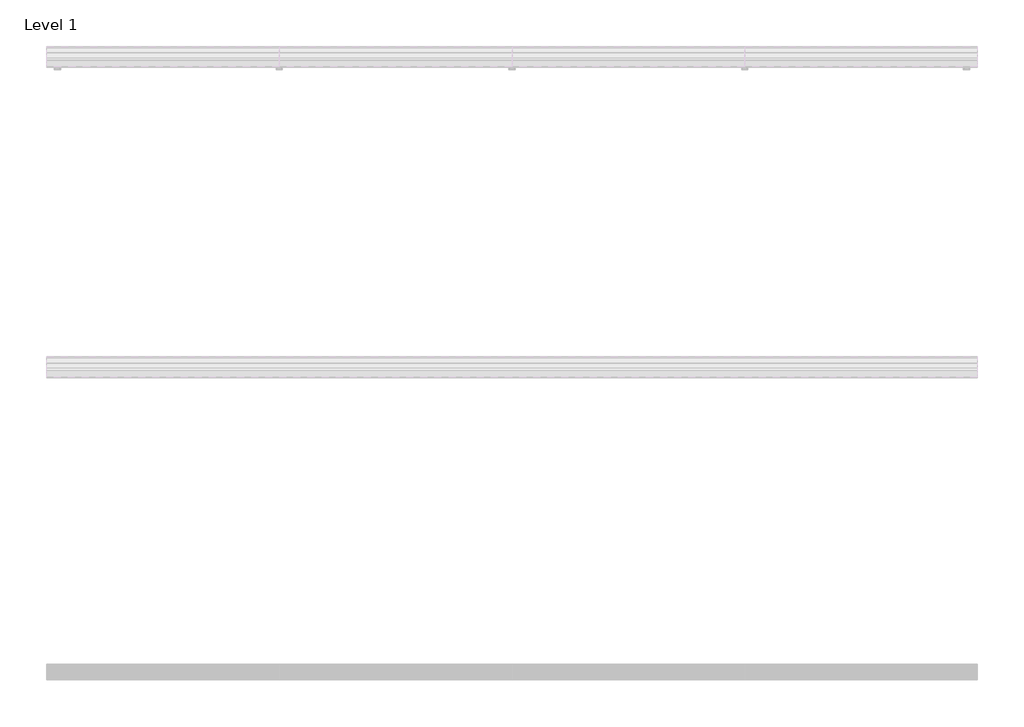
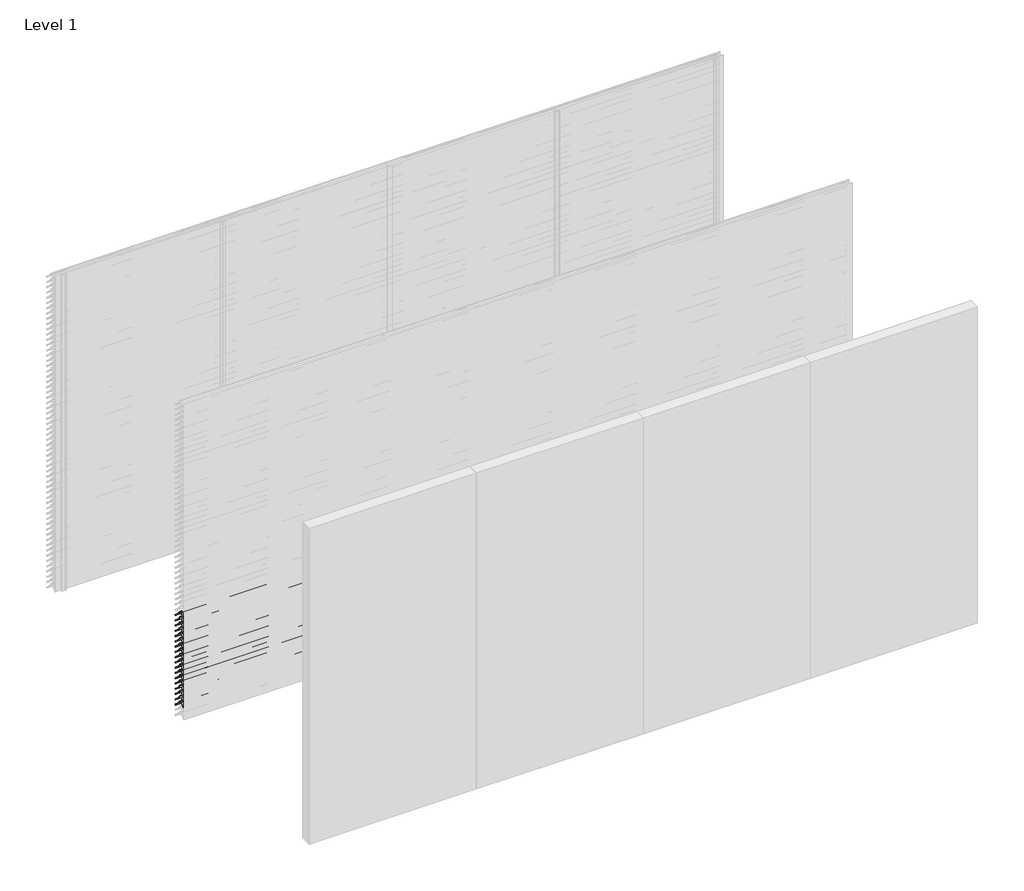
# One storey, part 91 of 173: 18 proxies.
"""IFC4 building model written with IfcOpenShell, lengths in millimetres."""

from ifc_helpers import new_model, si_unit, point, frame, frame_2d, origin, place, context, project, spatial, polyline, circle_curve, trimmed, segment, composite_curve, outline, extrude, element, save

model = new_model("IFC4")

# Units and contexts
model_context = context("Model", 3, world=origin())
ifc_project = project(units=[si_unit("LENGTHUNIT", "METRE", prefix="MILLI")], contexts=[model_context])

# Site, building, storey
site = spatial("IfcSite", under=ifc_project)
building = spatial("IfcBuilding", under=site)
storey = spatial("IfcBuildingStorey", under=building, Name="Level 1", Elevation=0.0)

# Proxies
placement = place(None, origin())
element("IfcBuildingElementProxy", 1, Name="Wall Sweeps", at=placement, inside=storey, context=model_context, shape_type="SweptSolid", body=[
    extrude(outline(composite_curve([segment(polyline([(-25998.0, 959.1474905), (-25998.0, 961.6227417)]), True, "CONTINUOUS"), segment(trimmed(circle_curve(frame_2d((-25951.2682172, 916.2200208)), 65.1557103), [point((-25998.0, 961.6227417))], [point((-25954.4014323, 981.3003524))], False, "CARTESIAN"), True, "CONTINUOUS"), segment(polyline([(-25954.4014323, 981.3003524), (-25934.8315836, 981.3003524)]), True, "CONTINUOUS"), segment(trimmed(circle_curve(frame_2d((-25732.7329489, 1128.5533172)), 250.0545817), [point((-25934.8315836, 981.3003524))], [point((-25941.4452143, 990.8344583))], False, "CARTESIAN"), True, "CONTINUOUS"), segment(trimmed(circle_curve(frame_2d((-25953.2981792, 985.1737835)), 13.1352966), [point((-25941.4452143, 990.8344583))], [point((-25953.8171475, 998.298824))], True, "CARTESIAN"), True, "CONTINUOUS"), segment(polyline([(-25953.8171475, 998.298824), (-25953.8171475, 1000.0)]), True, "CONTINUOUS"), segment(trimmed(circle_curve(frame_2d((-25953.2981792, 985.1737835)), 14.8352966), [point((-25953.8171475, 1000.0))], [point((-25939.9637661, 991.6760487))], False, "CARTESIAN"), True, "CONTINUOUS"), segment(trimmed(circle_curve(frame_2d((-25732.7329489, 1128.5533172)), 248.3545817), [point((-25939.9637661, 991.6760487))], [point((-25873.8787895, 924.2059416))], True, "CARTESIAN"), True, "CONTINUOUS"), segment(trimmed(circle_curve(frame_2d((-25883.8147537, 911.6649442)), 16.0), [point((-25873.8787895, 924.2059416))], [point((-25867.8648347, 910.4))], False, "CARTESIAN"), True, "CONTINUOUS"), segment(polyline([(-25867.8648347, 910.4), (-25869.6712069, 910.4)]), True, "CONTINUOUS"), segment(trimmed(circle_curve(frame_2d((-25883.8147537, 911.6649442)), 14.2), [point((-25869.6712069, 910.4))], [point((-25874.9518628, 922.7594998))], True, "CARTESIAN"), True, "CONTINUOUS"), segment(trimmed(circle_curve(frame_2d((-25732.7329489, 1128.5533172)), 250.1545817), [point((-25874.9518628, 922.7594998))], [point((-25933.7064024, 979.6003524))], False, "CARTESIAN"), True, "CONTINUOUS"), segment(polyline([(-25933.7064024, 979.6003524), (-25954.3602632, 979.6003524)]), True, "CONTINUOUS"), segment(trimmed(circle_curve(frame_2d((-25951.2682172, 916.2200208)), 63.4557103), [point((-25954.3602632, 979.6003524))], [point((-25998.0, 959.1474905))], True, "CARTESIAN"), True, "CONTINUOUS")], self_intersect=False)), frame((0.0, 0.0, 0.0), z_axis=(1.0, 0.0, 0.0), x_axis=(0.0, 1.0, 0.0)), (0.0, 0.0, 1.0), 6000.0),
])
element("IfcBuildingElementProxy", 2, Name="Wall Sweeps", at=placement, inside=storey, context=model_context, shape_type="SweptSolid", body=[
    extrude(outline(composite_curve([segment(polyline([(-25998.0, 909.1474905), (-25998.0, 911.6227417)]), True, "CONTINUOUS"), segment(trimmed(circle_curve(frame_2d((-25951.2682172, 866.2200208)), 65.1557103), [point((-25998.0, 911.6227417))], [point((-25954.4014323, 931.3003524))], False, "CARTESIAN"), True, "CONTINUOUS"), segment(polyline([(-25954.4014323, 931.3003524), (-25934.8315836, 931.3003524)]), True, "CONTINUOUS"), segment(trimmed(circle_curve(frame_2d((-25732.7329489, 1078.5533172)), 250.0545817), [point((-25934.8315836, 931.3003524))], [point((-25941.4452143, 940.8344583))], False, "CARTESIAN"), True, "CONTINUOUS"), segment(trimmed(circle_curve(frame_2d((-25953.2981792, 935.1737835)), 13.1352966), [point((-25941.4452143, 940.8344583))], [point((-25953.8171475, 948.298824))], True, "CARTESIAN"), True, "CONTINUOUS"), segment(polyline([(-25953.8171475, 948.298824), (-25953.8171475, 950.0)]), True, "CONTINUOUS"), segment(trimmed(circle_curve(frame_2d((-25953.2981792, 935.1737835)), 14.8352966), [point((-25953.8171475, 950.0))], [point((-25939.9637661, 941.6760487))], False, "CARTESIAN"), True, "CONTINUOUS"), segment(trimmed(circle_curve(frame_2d((-25732.7329489, 1078.5533172)), 248.3545817), [point((-25939.9637661, 941.6760487))], [point((-25873.8787895, 874.2059416))], True, "CARTESIAN"), True, "CONTINUOUS"), segment(trimmed(circle_curve(frame_2d((-25883.8147537, 861.6649442)), 16.0), [point((-25873.8787895, 874.2059416))], [point((-25867.8648347, 860.4))], False, "CARTESIAN"), True, "CONTINUOUS"), segment(polyline([(-25867.8648347, 860.4), (-25869.6712069, 860.4)]), True, "CONTINUOUS"), segment(trimmed(circle_curve(frame_2d((-25883.8147537, 861.6649442)), 14.2), [point((-25869.6712069, 860.4))], [point((-25874.9518628, 872.7594998))], True, "CARTESIAN"), True, "CONTINUOUS"), segment(trimmed(circle_curve(frame_2d((-25732.7329489, 1078.5533172)), 250.1545817), [point((-25874.9518628, 872.7594998))], [point((-25933.7064024, 929.6003524))], False, "CARTESIAN"), True, "CONTINUOUS"), segment(polyline([(-25933.7064024, 929.6003524), (-25954.3602632, 929.6003524)]), True, "CONTINUOUS"), segment(trimmed(circle_curve(frame_2d((-25951.2682172, 866.2200208)), 63.4557103), [point((-25954.3602632, 929.6003524))], [point((-25998.0, 909.1474905))], True, "CARTESIAN"), True, "CONTINUOUS")], self_intersect=False)), frame((0.0, 0.0, 0.0), z_axis=(1.0, 0.0, 0.0), x_axis=(0.0, 1.0, 0.0)), (0.0, 0.0, 1.0), 6000.0),
])
element("IfcBuildingElementProxy", 3, Name="Wall Sweeps", at=placement, inside=storey, context=model_context, shape_type="SweptSolid", body=[
    extrude(outline(composite_curve([segment(polyline([(-25998.0, 859.1474905), (-25998.0, 861.6227417)]), True, "CONTINUOUS"), segment(trimmed(circle_curve(frame_2d((-25951.2682172, 816.2200208)), 65.1557103), [point((-25998.0, 861.6227417))], [point((-25954.4014323, 881.3003524))], False, "CARTESIAN"), True, "CONTINUOUS"), segment(polyline([(-25954.4014323, 881.3003524), (-25934.8315836, 881.3003524)]), True, "CONTINUOUS"), segment(trimmed(circle_curve(frame_2d((-25732.7329489, 1028.5533172)), 250.0545817), [point((-25934.8315836, 881.3003524))], [point((-25941.4452143, 890.8344583))], False, "CARTESIAN"), True, "CONTINUOUS"), segment(trimmed(circle_curve(frame_2d((-25953.2981792, 885.1737835)), 13.1352966), [point((-25941.4452143, 890.8344583))], [point((-25953.8171475, 898.298824))], True, "CARTESIAN"), True, "CONTINUOUS"), segment(polyline([(-25953.8171475, 898.298824), (-25953.8171475, 900.0)]), True, "CONTINUOUS"), segment(trimmed(circle_curve(frame_2d((-25953.2981792, 885.1737835)), 14.8352966), [point((-25953.8171475, 900.0))], [point((-25939.9637661, 891.6760487))], False, "CARTESIAN"), True, "CONTINUOUS"), segment(trimmed(circle_curve(frame_2d((-25732.7329489, 1028.5533172)), 248.3545817), [point((-25939.9637661, 891.6760487))], [point((-25873.8787895, 824.2059416))], True, "CARTESIAN"), True, "CONTINUOUS"), segment(trimmed(circle_curve(frame_2d((-25883.8147537, 811.6649442)), 16.0), [point((-25873.8787895, 824.2059416))], [point((-25867.8648347, 810.4))], False, "CARTESIAN"), True, "CONTINUOUS"), segment(polyline([(-25867.8648347, 810.4), (-25869.6712069, 810.4)]), True, "CONTINUOUS"), segment(trimmed(circle_curve(frame_2d((-25883.8147537, 811.6649442)), 14.2), [point((-25869.6712069, 810.4))], [point((-25874.9518628, 822.7594998))], True, "CARTESIAN"), True, "CONTINUOUS"), segment(trimmed(circle_curve(frame_2d((-25732.7329489, 1028.5533172)), 250.1545817), [point((-25874.9518628, 822.7594998))], [point((-25933.7064024, 879.6003524))], False, "CARTESIAN"), True, "CONTINUOUS"), segment(polyline([(-25933.7064024, 879.6003524), (-25954.3602632, 879.6003524)]), True, "CONTINUOUS"), segment(trimmed(circle_curve(frame_2d((-25951.2682172, 816.2200208)), 63.4557103), [point((-25954.3602632, 879.6003524))], [point((-25998.0, 859.1474905))], True, "CARTESIAN"), True, "CONTINUOUS")], self_intersect=False)), frame((0.0, 0.0, 0.0), z_axis=(1.0, 0.0, 0.0), x_axis=(0.0, 1.0, 0.0)), (0.0, 0.0, 1.0), 6000.0),
])
element("IfcBuildingElementProxy", 4, Name="Wall Sweeps", at=placement, inside=storey, context=model_context, shape_type="SweptSolid", body=[
    extrude(outline(composite_curve([segment(polyline([(-25998.0, 809.1474905), (-25998.0, 811.6227417)]), True, "CONTINUOUS"), segment(trimmed(circle_curve(frame_2d((-25951.2682172, 766.2200208)), 65.1557103), [point((-25998.0, 811.6227417))], [point((-25954.4014323, 831.3003524))], False, "CARTESIAN"), True, "CONTINUOUS"), segment(polyline([(-25954.4014323, 831.3003524), (-25934.8315836, 831.3003524)]), True, "CONTINUOUS"), segment(trimmed(circle_curve(frame_2d((-25732.7329489, 978.5533172)), 250.0545817), [point((-25934.8315836, 831.3003524))], [point((-25941.4452143, 840.8344583))], False, "CARTESIAN"), True, "CONTINUOUS"), segment(trimmed(circle_curve(frame_2d((-25953.2981792, 835.1737835)), 13.1352966), [point((-25941.4452143, 840.8344583))], [point((-25953.8171475, 848.298824))], True, "CARTESIAN"), True, "CONTINUOUS"), segment(polyline([(-25953.8171475, 848.298824), (-25953.8171475, 850.0)]), True, "CONTINUOUS"), segment(trimmed(circle_curve(frame_2d((-25953.2981792, 835.1737835)), 14.8352966), [point((-25953.8171475, 850.0))], [point((-25939.9637661, 841.6760487))], False, "CARTESIAN"), True, "CONTINUOUS"), segment(trimmed(circle_curve(frame_2d((-25732.7329489, 978.5533172)), 248.3545817), [point((-25939.9637661, 841.6760487))], [point((-25873.8787895, 774.2059416))], True, "CARTESIAN"), True, "CONTINUOUS"), segment(trimmed(circle_curve(frame_2d((-25883.8147537, 761.6649442)), 16.0), [point((-25873.8787895, 774.2059416))], [point((-25867.8648347, 760.4))], False, "CARTESIAN"), True, "CONTINUOUS"), segment(polyline([(-25867.8648347, 760.4), (-25869.6712069, 760.4)]), True, "CONTINUOUS"), segment(trimmed(circle_curve(frame_2d((-25883.8147537, 761.6649442)), 14.2), [point((-25869.6712069, 760.4))], [point((-25874.9518628, 772.7594998))], True, "CARTESIAN"), True, "CONTINUOUS"), segment(trimmed(circle_curve(frame_2d((-25732.7329489, 978.5533172)), 250.1545817), [point((-25874.9518628, 772.7594998))], [point((-25933.7064024, 829.6003524))], False, "CARTESIAN"), True, "CONTINUOUS"), segment(polyline([(-25933.7064024, 829.6003524), (-25954.3602632, 829.6003524)]), True, "CONTINUOUS"), segment(trimmed(circle_curve(frame_2d((-25951.2682172, 766.2200208)), 63.4557103), [point((-25954.3602632, 829.6003524))], [point((-25998.0, 809.1474905))], True, "CARTESIAN"), True, "CONTINUOUS")], self_intersect=False)), frame((0.0, 0.0, 0.0), z_axis=(1.0, 0.0, 0.0), x_axis=(0.0, 1.0, 0.0)), (0.0, 0.0, 1.0), 6000.0),
])
element("IfcBuildingElementProxy", 5, Name="Wall Sweeps", at=placement, inside=storey, context=model_context, shape_type="SweptSolid", body=[
    extrude(outline(composite_curve([segment(polyline([(-25998.0, 759.1474905), (-25998.0, 761.6227417)]), True, "CONTINUOUS"), segment(trimmed(circle_curve(frame_2d((-25951.2682172, 716.2200208)), 65.1557103), [point((-25998.0, 761.6227417))], [point((-25954.4014323, 781.3003524))], False, "CARTESIAN"), True, "CONTINUOUS"), segment(polyline([(-25954.4014323, 781.3003524), (-25934.8315836, 781.3003524)]), True, "CONTINUOUS"), segment(trimmed(circle_curve(frame_2d((-25732.7329489, 928.5533172)), 250.0545817), [point((-25934.8315836, 781.3003524))], [point((-25941.4452143, 790.8344583))], False, "CARTESIAN"), True, "CONTINUOUS"), segment(trimmed(circle_curve(frame_2d((-25953.2981792, 785.1737835)), 13.1352966), [point((-25941.4452143, 790.8344583))], [point((-25953.8171475, 798.298824))], True, "CARTESIAN"), True, "CONTINUOUS"), segment(polyline([(-25953.8171475, 798.298824), (-25953.8171475, 800.0)]), True, "CONTINUOUS"), segment(trimmed(circle_curve(frame_2d((-25953.2981792, 785.1737835)), 14.8352966), [point((-25953.8171475, 800.0))], [point((-25939.9637661, 791.6760487))], False, "CARTESIAN"), True, "CONTINUOUS"), segment(trimmed(circle_curve(frame_2d((-25732.7329489, 928.5533172)), 248.3545817), [point((-25939.9637661, 791.6760487))], [point((-25873.8787895, 724.2059416))], True, "CARTESIAN"), True, "CONTINUOUS"), segment(trimmed(circle_curve(frame_2d((-25883.8147537, 711.6649442)), 16.0), [point((-25873.8787895, 724.2059416))], [point((-25867.8648347, 710.4))], False, "CARTESIAN"), True, "CONTINUOUS"), segment(polyline([(-25867.8648347, 710.4), (-25869.6712069, 710.4)]), True, "CONTINUOUS"), segment(trimmed(circle_curve(frame_2d((-25883.8147537, 711.6649442)), 14.2), [point((-25869.6712069, 710.4))], [point((-25874.9518628, 722.7594998))], True, "CARTESIAN"), True, "CONTINUOUS"), segment(trimmed(circle_curve(frame_2d((-25732.7329489, 928.5533172)), 250.1545817), [point((-25874.9518628, 722.7594998))], [point((-25933.7064024, 779.6003524))], False, "CARTESIAN"), True, "CONTINUOUS"), segment(polyline([(-25933.7064024, 779.6003524), (-25954.3602632, 779.6003524)]), True, "CONTINUOUS"), segment(trimmed(circle_curve(frame_2d((-25951.2682172, 716.2200208)), 63.4557103), [point((-25954.3602632, 779.6003524))], [point((-25998.0, 759.1474905))], True, "CARTESIAN"), True, "CONTINUOUS")], self_intersect=False)), frame((0.0, 0.0, 0.0), z_axis=(1.0, 0.0, 0.0), x_axis=(0.0, 1.0, 0.0)), (0.0, 0.0, 1.0), 6000.0),
])
element("IfcBuildingElementProxy", 6, Name="Wall Sweeps", at=placement, inside=storey, context=model_context, shape_type="SweptSolid", body=[
    extrude(outline(composite_curve([segment(polyline([(-25998.0, 709.1474905), (-25998.0, 711.6227417)]), True, "CONTINUOUS"), segment(trimmed(circle_curve(frame_2d((-25951.2682172, 666.2200208)), 65.1557103), [point((-25998.0, 711.6227417))], [point((-25954.4014323, 731.3003524))], False, "CARTESIAN"), True, "CONTINUOUS"), segment(polyline([(-25954.4014323, 731.3003524), (-25934.8315836, 731.3003524)]), True, "CONTINUOUS"), segment(trimmed(circle_curve(frame_2d((-25732.7329489, 878.5533172)), 250.0545817), [point((-25934.8315836, 731.3003524))], [point((-25941.4452143, 740.8344583))], False, "CARTESIAN"), True, "CONTINUOUS"), segment(trimmed(circle_curve(frame_2d((-25953.2981792, 735.1737835)), 13.1352966), [point((-25941.4452143, 740.8344583))], [point((-25953.8171475, 748.298824))], True, "CARTESIAN"), True, "CONTINUOUS"), segment(polyline([(-25953.8171475, 748.298824), (-25953.8171475, 750.0)]), True, "CONTINUOUS"), segment(trimmed(circle_curve(frame_2d((-25953.2981792, 735.1737835)), 14.8352966), [point((-25953.8171475, 750.0))], [point((-25939.9637661, 741.6760487))], False, "CARTESIAN"), True, "CONTINUOUS"), segment(trimmed(circle_curve(frame_2d((-25732.7329489, 878.5533172)), 248.3545817), [point((-25939.9637661, 741.6760487))], [point((-25873.8787895, 674.2059416))], True, "CARTESIAN"), True, "CONTINUOUS"), segment(trimmed(circle_curve(frame_2d((-25883.8147537, 661.6649442)), 16.0), [point((-25873.8787895, 674.2059416))], [point((-25867.8648347, 660.4))], False, "CARTESIAN"), True, "CONTINUOUS"), segment(polyline([(-25867.8648347, 660.4), (-25869.6712069, 660.4)]), True, "CONTINUOUS"), segment(trimmed(circle_curve(frame_2d((-25883.8147537, 661.6649442)), 14.2), [point((-25869.6712069, 660.4))], [point((-25874.9518628, 672.7594998))], True, "CARTESIAN"), True, "CONTINUOUS"), segment(trimmed(circle_curve(frame_2d((-25732.7329489, 878.5533172)), 250.1545817), [point((-25874.9518628, 672.7594998))], [point((-25933.7064024, 729.6003524))], False, "CARTESIAN"), True, "CONTINUOUS"), segment(polyline([(-25933.7064024, 729.6003524), (-25954.3602632, 729.6003524)]), True, "CONTINUOUS"), segment(trimmed(circle_curve(frame_2d((-25951.2682172, 666.2200208)), 63.4557103), [point((-25954.3602632, 729.6003524))], [point((-25998.0, 709.1474905))], True, "CARTESIAN"), True, "CONTINUOUS")], self_intersect=False)), frame((0.0, 0.0, 0.0), z_axis=(1.0, 0.0, 0.0), x_axis=(0.0, 1.0, 0.0)), (0.0, 0.0, 1.0), 6000.0),
])
element("IfcBuildingElementProxy", 7, Name="Wall Sweeps", at=placement, inside=storey, context=model_context, shape_type="SweptSolid", body=[
    extrude(outline(composite_curve([segment(polyline([(-25998.0, 659.1474905), (-25998.0, 661.6227417)]), True, "CONTINUOUS"), segment(trimmed(circle_curve(frame_2d((-25951.2682172, 616.2200208)), 65.1557103), [point((-25998.0, 661.6227417))], [point((-25954.4014323, 681.3003524))], False, "CARTESIAN"), True, "CONTINUOUS"), segment(polyline([(-25954.4014323, 681.3003524), (-25934.8315836, 681.3003524)]), True, "CONTINUOUS"), segment(trimmed(circle_curve(frame_2d((-25732.7329489, 828.5533172)), 250.0545817), [point((-25934.8315836, 681.3003524))], [point((-25941.4452143, 690.8344583))], False, "CARTESIAN"), True, "CONTINUOUS"), segment(trimmed(circle_curve(frame_2d((-25953.2981792, 685.1737835)), 13.1352966), [point((-25941.4452143, 690.8344583))], [point((-25953.8171475, 698.298824))], True, "CARTESIAN"), True, "CONTINUOUS"), segment(polyline([(-25953.8171475, 698.298824), (-25953.8171475, 700.0)]), True, "CONTINUOUS"), segment(trimmed(circle_curve(frame_2d((-25953.2981792, 685.1737835)), 14.8352966), [point((-25953.8171475, 700.0))], [point((-25939.9637661, 691.6760487))], False, "CARTESIAN"), True, "CONTINUOUS"), segment(trimmed(circle_curve(frame_2d((-25732.7329489, 828.5533172)), 248.3545817), [point((-25939.9637661, 691.6760487))], [point((-25873.8787895, 624.2059416))], True, "CARTESIAN"), True, "CONTINUOUS"), segment(trimmed(circle_curve(frame_2d((-25883.8147537, 611.6649442)), 16.0), [point((-25873.8787895, 624.2059416))], [point((-25867.8648347, 610.4))], False, "CARTESIAN"), True, "CONTINUOUS"), segment(polyline([(-25867.8648347, 610.4), (-25869.6712069, 610.4)]), True, "CONTINUOUS"), segment(trimmed(circle_curve(frame_2d((-25883.8147537, 611.6649442)), 14.2), [point((-25869.6712069, 610.4))], [point((-25874.9518628, 622.7594998))], True, "CARTESIAN"), True, "CONTINUOUS"), segment(trimmed(circle_curve(frame_2d((-25732.7329489, 828.5533172)), 250.1545817), [point((-25874.9518628, 622.7594998))], [point((-25933.7064024, 679.6003524))], False, "CARTESIAN"), True, "CONTINUOUS"), segment(polyline([(-25933.7064024, 679.6003524), (-25954.3602632, 679.6003524)]), True, "CONTINUOUS"), segment(trimmed(circle_curve(frame_2d((-25951.2682172, 616.2200208)), 63.4557103), [point((-25954.3602632, 679.6003524))], [point((-25998.0, 659.1474905))], True, "CARTESIAN"), True, "CONTINUOUS")], self_intersect=False)), frame((0.0, 0.0, 0.0), z_axis=(1.0, 0.0, 0.0), x_axis=(0.0, 1.0, 0.0)), (0.0, 0.0, 1.0), 6000.0),
])
element("IfcBuildingElementProxy", 8, Name="Wall Sweeps", at=placement, inside=storey, context=model_context, shape_type="SweptSolid", body=[
    extrude(outline(composite_curve([segment(polyline([(-25998.0, 609.1474905), (-25998.0, 611.6227417)]), True, "CONTINUOUS"), segment(trimmed(circle_curve(frame_2d((-25951.2682172, 566.2200208)), 65.1557103), [point((-25998.0, 611.6227417))], [point((-25954.4014323, 631.3003524))], False, "CARTESIAN"), True, "CONTINUOUS"), segment(polyline([(-25954.4014323, 631.3003524), (-25934.8315836, 631.3003524)]), True, "CONTINUOUS"), segment(trimmed(circle_curve(frame_2d((-25732.7329489, 778.5533172)), 250.0545817), [point((-25934.8315836, 631.3003524))], [point((-25941.4452143, 640.8344583))], False, "CARTESIAN"), True, "CONTINUOUS"), segment(trimmed(circle_curve(frame_2d((-25953.2981792, 635.1737835)), 13.1352966), [point((-25941.4452143, 640.8344583))], [point((-25953.8171475, 648.298824))], True, "CARTESIAN"), True, "CONTINUOUS"), segment(polyline([(-25953.8171475, 648.298824), (-25953.8171475, 650.0)]), True, "CONTINUOUS"), segment(trimmed(circle_curve(frame_2d((-25953.2981792, 635.1737835)), 14.8352966), [point((-25953.8171475, 650.0))], [point((-25939.9637661, 641.6760487))], False, "CARTESIAN"), True, "CONTINUOUS"), segment(trimmed(circle_curve(frame_2d((-25732.7329489, 778.5533172)), 248.3545817), [point((-25939.9637661, 641.6760487))], [point((-25873.8787895, 574.2059416))], True, "CARTESIAN"), True, "CONTINUOUS"), segment(trimmed(circle_curve(frame_2d((-25883.8147537, 561.6649442)), 16.0), [point((-25873.8787895, 574.2059416))], [point((-25867.8648347, 560.4))], False, "CARTESIAN"), True, "CONTINUOUS"), segment(polyline([(-25867.8648347, 560.4), (-25869.6712069, 560.4)]), True, "CONTINUOUS"), segment(trimmed(circle_curve(frame_2d((-25883.8147537, 561.6649442)), 14.2), [point((-25869.6712069, 560.4))], [point((-25874.9518628, 572.7594998))], True, "CARTESIAN"), True, "CONTINUOUS"), segment(trimmed(circle_curve(frame_2d((-25732.7329489, 778.5533172)), 250.1545817), [point((-25874.9518628, 572.7594998))], [point((-25933.7064024, 629.6003524))], False, "CARTESIAN"), True, "CONTINUOUS"), segment(polyline([(-25933.7064024, 629.6003524), (-25954.3602632, 629.6003524)]), True, "CONTINUOUS"), segment(trimmed(circle_curve(frame_2d((-25951.2682172, 566.2200208)), 63.4557103), [point((-25954.3602632, 629.6003524))], [point((-25998.0, 609.1474905))], True, "CARTESIAN"), True, "CONTINUOUS")], self_intersect=False)), frame((0.0, 0.0, 0.0), z_axis=(1.0, 0.0, 0.0), x_axis=(0.0, 1.0, 0.0)), (0.0, 0.0, 1.0), 6000.0),
])
element("IfcBuildingElementProxy", 9, Name="Wall Sweeps", at=placement, inside=storey, context=model_context, shape_type="SweptSolid", body=[
    extrude(outline(composite_curve([segment(polyline([(-25998.0, 559.1474905), (-25998.0, 561.6227417)]), True, "CONTINUOUS"), segment(trimmed(circle_curve(frame_2d((-25951.2682172, 516.2200208)), 65.1557103), [point((-25998.0, 561.6227417))], [point((-25954.4014323, 581.3003524))], False, "CARTESIAN"), True, "CONTINUOUS"), segment(polyline([(-25954.4014323, 581.3003524), (-25934.8315836, 581.3003524)]), True, "CONTINUOUS"), segment(trimmed(circle_curve(frame_2d((-25732.7329489, 728.5533172)), 250.0545817), [point((-25934.8315836, 581.3003524))], [point((-25941.4452143, 590.8344583))], False, "CARTESIAN"), True, "CONTINUOUS"), segment(trimmed(circle_curve(frame_2d((-25953.2981792, 585.1737835)), 13.1352966), [point((-25941.4452143, 590.8344583))], [point((-25953.8171475, 598.298824))], True, "CARTESIAN"), True, "CONTINUOUS"), segment(polyline([(-25953.8171475, 598.298824), (-25953.8171475, 600.0)]), True, "CONTINUOUS"), segment(trimmed(circle_curve(frame_2d((-25953.2981792, 585.1737835)), 14.8352966), [point((-25953.8171475, 600.0))], [point((-25939.9637661, 591.6760487))], False, "CARTESIAN"), True, "CONTINUOUS"), segment(trimmed(circle_curve(frame_2d((-25732.7329489, 728.5533172)), 248.3545817), [point((-25939.9637661, 591.6760487))], [point((-25873.8787895, 524.2059416))], True, "CARTESIAN"), True, "CONTINUOUS"), segment(trimmed(circle_curve(frame_2d((-25883.8147537, 511.6649442)), 16.0), [point((-25873.8787895, 524.2059416))], [point((-25867.8648347, 510.4))], False, "CARTESIAN"), True, "CONTINUOUS"), segment(polyline([(-25867.8648347, 510.4), (-25869.6712069, 510.4)]), True, "CONTINUOUS"), segment(trimmed(circle_curve(frame_2d((-25883.8147537, 511.6649442)), 14.2), [point((-25869.6712069, 510.4))], [point((-25874.9518628, 522.7594998))], True, "CARTESIAN"), True, "CONTINUOUS"), segment(trimmed(circle_curve(frame_2d((-25732.7329489, 728.5533172)), 250.1545817), [point((-25874.9518628, 522.7594998))], [point((-25933.7064024, 579.6003524))], False, "CARTESIAN"), True, "CONTINUOUS"), segment(polyline([(-25933.7064024, 579.6003524), (-25954.3602632, 579.6003524)]), True, "CONTINUOUS"), segment(trimmed(circle_curve(frame_2d((-25951.2682172, 516.2200208)), 63.4557103), [point((-25954.3602632, 579.6003524))], [point((-25998.0, 559.1474905))], True, "CARTESIAN"), True, "CONTINUOUS")], self_intersect=False)), frame((0.0, 0.0, 0.0), z_axis=(1.0, 0.0, 0.0), x_axis=(0.0, 1.0, 0.0)), (0.0, 0.0, 1.0), 6000.0),
])
element("IfcBuildingElementProxy", 10, Name="Wall Sweeps", at=placement, inside=storey, context=model_context, shape_type="SweptSolid", body=[
    extrude(outline(composite_curve([segment(polyline([(-25998.0, 509.1474905), (-25998.0, 511.6227417)]), True, "CONTINUOUS"), segment(trimmed(circle_curve(frame_2d((-25951.2682172, 466.2200208)), 65.1557103), [point((-25998.0, 511.6227417))], [point((-25954.4014323, 531.3003524))], False, "CARTESIAN"), True, "CONTINUOUS"), segment(polyline([(-25954.4014323, 531.3003524), (-25934.8315836, 531.3003524)]), True, "CONTINUOUS"), segment(trimmed(circle_curve(frame_2d((-25732.7329489, 678.5533172)), 250.0545817), [point((-25934.8315836, 531.3003524))], [point((-25941.4452143, 540.8344583))], False, "CARTESIAN"), True, "CONTINUOUS"), segment(trimmed(circle_curve(frame_2d((-25953.2981792, 535.1737835)), 13.1352966), [point((-25941.4452143, 540.8344583))], [point((-25953.8171475, 548.298824))], True, "CARTESIAN"), True, "CONTINUOUS"), segment(polyline([(-25953.8171475, 548.298824), (-25953.8171475, 550.0)]), True, "CONTINUOUS"), segment(trimmed(circle_curve(frame_2d((-25953.2981792, 535.1737835)), 14.8352966), [point((-25953.8171475, 550.0))], [point((-25939.9637661, 541.6760487))], False, "CARTESIAN"), True, "CONTINUOUS"), segment(trimmed(circle_curve(frame_2d((-25732.7329489, 678.5533172)), 248.3545817), [point((-25939.9637661, 541.6760487))], [point((-25873.8787895, 474.2059416))], True, "CARTESIAN"), True, "CONTINUOUS"), segment(trimmed(circle_curve(frame_2d((-25883.8147537, 461.6649442)), 16.0), [point((-25873.8787895, 474.2059416))], [point((-25867.8648347, 460.4))], False, "CARTESIAN"), True, "CONTINUOUS"), segment(polyline([(-25867.8648347, 460.4), (-25869.6712069, 460.4)]), True, "CONTINUOUS"), segment(trimmed(circle_curve(frame_2d((-25883.8147537, 461.6649442)), 14.2), [point((-25869.6712069, 460.4))], [point((-25874.9518628, 472.7594998))], True, "CARTESIAN"), True, "CONTINUOUS"), segment(trimmed(circle_curve(frame_2d((-25732.7329489, 678.5533172)), 250.1545817), [point((-25874.9518628, 472.7594998))], [point((-25933.7064024, 529.6003524))], False, "CARTESIAN"), True, "CONTINUOUS"), segment(polyline([(-25933.7064024, 529.6003524), (-25954.3602632, 529.6003524)]), True, "CONTINUOUS"), segment(trimmed(circle_curve(frame_2d((-25951.2682172, 466.2200208)), 63.4557103), [point((-25954.3602632, 529.6003524))], [point((-25998.0, 509.1474905))], True, "CARTESIAN"), True, "CONTINUOUS")], self_intersect=False)), frame((0.0, 0.0, 0.0), z_axis=(1.0, 0.0, 0.0), x_axis=(0.0, 1.0, 0.0)), (0.0, 0.0, 1.0), 6000.0),
])
element("IfcBuildingElementProxy", 11, Name="Wall Sweeps", at=placement, inside=storey, context=model_context, shape_type="SweptSolid", body=[
    extrude(outline(composite_curve([segment(polyline([(-25998.0, 459.1474905), (-25998.0, 461.6227417)]), True, "CONTINUOUS"), segment(trimmed(circle_curve(frame_2d((-25951.2682172, 416.2200208)), 65.1557103), [point((-25998.0, 461.6227417))], [point((-25954.4014323, 481.3003524))], False, "CARTESIAN"), True, "CONTINUOUS"), segment(polyline([(-25954.4014323, 481.3003524), (-25934.8315836, 481.3003524)]), True, "CONTINUOUS"), segment(trimmed(circle_curve(frame_2d((-25732.7329489, 628.5533172)), 250.0545817), [point((-25934.8315836, 481.3003524))], [point((-25941.4452143, 490.8344583))], False, "CARTESIAN"), True, "CONTINUOUS"), segment(trimmed(circle_curve(frame_2d((-25953.2981792, 485.1737835)), 13.1352966), [point((-25941.4452143, 490.8344583))], [point((-25953.8171475, 498.298824))], True, "CARTESIAN"), True, "CONTINUOUS"), segment(polyline([(-25953.8171475, 498.298824), (-25953.8171475, 500.0)]), True, "CONTINUOUS"), segment(trimmed(circle_curve(frame_2d((-25953.2981792, 485.1737835)), 14.8352966), [point((-25953.8171475, 500.0))], [point((-25939.9637661, 491.6760487))], False, "CARTESIAN"), True, "CONTINUOUS"), segment(trimmed(circle_curve(frame_2d((-25732.7329489, 628.5533172)), 248.3545817), [point((-25939.9637661, 491.6760487))], [point((-25873.8787895, 424.2059416))], True, "CARTESIAN"), True, "CONTINUOUS"), segment(trimmed(circle_curve(frame_2d((-25883.8147537, 411.6649442)), 16.0), [point((-25873.8787895, 424.2059416))], [point((-25867.8648347, 410.4))], False, "CARTESIAN"), True, "CONTINUOUS"), segment(polyline([(-25867.8648347, 410.4), (-25869.6712069, 410.4)]), True, "CONTINUOUS"), segment(trimmed(circle_curve(frame_2d((-25883.8147537, 411.6649442)), 14.2), [point((-25869.6712069, 410.4))], [point((-25874.9518628, 422.7594998))], True, "CARTESIAN"), True, "CONTINUOUS"), segment(trimmed(circle_curve(frame_2d((-25732.7329489, 628.5533172)), 250.1545817), [point((-25874.9518628, 422.7594998))], [point((-25933.7064024, 479.6003524))], False, "CARTESIAN"), True, "CONTINUOUS"), segment(polyline([(-25933.7064024, 479.6003524), (-25954.3602632, 479.6003524)]), True, "CONTINUOUS"), segment(trimmed(circle_curve(frame_2d((-25951.2682172, 416.2200208)), 63.4557103), [point((-25954.3602632, 479.6003524))], [point((-25998.0, 459.1474905))], True, "CARTESIAN"), True, "CONTINUOUS")], self_intersect=False)), frame((0.0, 0.0, 0.0), z_axis=(1.0, 0.0, 0.0), x_axis=(0.0, 1.0, 0.0)), (0.0, 0.0, 1.0), 6000.0),
])
element("IfcBuildingElementProxy", 12, Name="Wall Sweeps", at=placement, inside=storey, context=model_context, shape_type="SweptSolid", body=[
    extrude(outline(composite_curve([segment(polyline([(-25998.0, 409.1474905), (-25998.0, 411.6227417)]), True, "CONTINUOUS"), segment(trimmed(circle_curve(frame_2d((-25951.2682172, 366.2200208)), 65.1557103), [point((-25998.0, 411.6227417))], [point((-25954.4014323, 431.3003524))], False, "CARTESIAN"), True, "CONTINUOUS"), segment(polyline([(-25954.4014323, 431.3003524), (-25934.8315836, 431.3003524)]), True, "CONTINUOUS"), segment(trimmed(circle_curve(frame_2d((-25732.7329489, 578.5533172)), 250.0545817), [point((-25934.8315836, 431.3003524))], [point((-25941.4452143, 440.8344583))], False, "CARTESIAN"), True, "CONTINUOUS"), segment(trimmed(circle_curve(frame_2d((-25953.2981792, 435.1737835)), 13.1352966), [point((-25941.4452143, 440.8344583))], [point((-25953.8171475, 448.298824))], True, "CARTESIAN"), True, "CONTINUOUS"), segment(polyline([(-25953.8171475, 448.298824), (-25953.8171475, 450.0)]), True, "CONTINUOUS"), segment(trimmed(circle_curve(frame_2d((-25953.2981792, 435.1737835)), 14.8352966), [point((-25953.8171475, 450.0))], [point((-25939.9637661, 441.6760487))], False, "CARTESIAN"), True, "CONTINUOUS"), segment(trimmed(circle_curve(frame_2d((-25732.7329489, 578.5533172)), 248.3545817), [point((-25939.9637661, 441.6760487))], [point((-25873.8787895, 374.2059416))], True, "CARTESIAN"), True, "CONTINUOUS"), segment(trimmed(circle_curve(frame_2d((-25883.8147537, 361.6649442)), 16.0), [point((-25873.8787895, 374.2059416))], [point((-25867.8648347, 360.4))], False, "CARTESIAN"), True, "CONTINUOUS"), segment(polyline([(-25867.8648347, 360.4), (-25869.6712069, 360.4)]), True, "CONTINUOUS"), segment(trimmed(circle_curve(frame_2d((-25883.8147537, 361.6649442)), 14.2), [point((-25869.6712069, 360.4))], [point((-25874.9518628, 372.7594998))], True, "CARTESIAN"), True, "CONTINUOUS"), segment(trimmed(circle_curve(frame_2d((-25732.7329489, 578.5533172)), 250.1545817), [point((-25874.9518628, 372.7594998))], [point((-25933.7064024, 429.6003524))], False, "CARTESIAN"), True, "CONTINUOUS"), segment(polyline([(-25933.7064024, 429.6003524), (-25954.3602632, 429.6003524)]), True, "CONTINUOUS"), segment(trimmed(circle_curve(frame_2d((-25951.2682172, 366.2200208)), 63.4557103), [point((-25954.3602632, 429.6003524))], [point((-25998.0, 409.1474905))], True, "CARTESIAN"), True, "CONTINUOUS")], self_intersect=False)), frame((0.0, 0.0, 0.0), z_axis=(1.0, 0.0, 0.0), x_axis=(0.0, 1.0, 0.0)), (0.0, 0.0, 1.0), 6000.0),
])
element("IfcBuildingElementProxy", 13, Name="Wall Sweeps", at=placement, inside=storey, context=model_context, shape_type="SweptSolid", body=[
    extrude(outline(composite_curve([segment(polyline([(-25998.0, 359.1474905), (-25998.0, 361.6227417)]), True, "CONTINUOUS"), segment(trimmed(circle_curve(frame_2d((-25951.2682172, 316.2200208)), 65.1557103), [point((-25998.0, 361.6227417))], [point((-25954.4014323, 381.3003524))], False, "CARTESIAN"), True, "CONTINUOUS"), segment(polyline([(-25954.4014323, 381.3003524), (-25934.8315836, 381.3003524)]), True, "CONTINUOUS"), segment(trimmed(circle_curve(frame_2d((-25732.7329489, 528.5533172)), 250.0545817), [point((-25934.8315836, 381.3003524))], [point((-25941.4452143, 390.8344583))], False, "CARTESIAN"), True, "CONTINUOUS"), segment(trimmed(circle_curve(frame_2d((-25953.2981792, 385.1737835)), 13.1352966), [point((-25941.4452143, 390.8344583))], [point((-25953.8171475, 398.298824))], True, "CARTESIAN"), True, "CONTINUOUS"), segment(polyline([(-25953.8171475, 398.298824), (-25953.8171475, 400.0)]), True, "CONTINUOUS"), segment(trimmed(circle_curve(frame_2d((-25953.2981792, 385.1737835)), 14.8352966), [point((-25953.8171475, 400.0))], [point((-25939.9637661, 391.6760487))], False, "CARTESIAN"), True, "CONTINUOUS"), segment(trimmed(circle_curve(frame_2d((-25732.7329489, 528.5533172)), 248.3545817), [point((-25939.9637661, 391.6760487))], [point((-25873.8787895, 324.2059416))], True, "CARTESIAN"), True, "CONTINUOUS"), segment(trimmed(circle_curve(frame_2d((-25883.8147537, 311.6649442)), 16.0), [point((-25873.8787895, 324.2059416))], [point((-25867.8648347, 310.4))], False, "CARTESIAN"), True, "CONTINUOUS"), segment(polyline([(-25867.8648347, 310.4), (-25869.6712069, 310.4)]), True, "CONTINUOUS"), segment(trimmed(circle_curve(frame_2d((-25883.8147537, 311.6649442)), 14.2), [point((-25869.6712069, 310.4))], [point((-25874.9518628, 322.7594998))], True, "CARTESIAN"), True, "CONTINUOUS"), segment(trimmed(circle_curve(frame_2d((-25732.7329489, 528.5533172)), 250.1545817), [point((-25874.9518628, 322.7594998))], [point((-25933.7064024, 379.6003524))], False, "CARTESIAN"), True, "CONTINUOUS"), segment(polyline([(-25933.7064024, 379.6003524), (-25954.3602632, 379.6003524)]), True, "CONTINUOUS"), segment(trimmed(circle_curve(frame_2d((-25951.2682172, 316.2200208)), 63.4557103), [point((-25954.3602632, 379.6003524))], [point((-25998.0, 359.1474905))], True, "CARTESIAN"), True, "CONTINUOUS")], self_intersect=False)), frame((0.0, 0.0, 0.0), z_axis=(1.0, 0.0, 0.0), x_axis=(0.0, 1.0, 0.0)), (0.0, 0.0, 1.0), 6000.0),
])
element("IfcBuildingElementProxy", 14, Name="Wall Sweeps", at=placement, inside=storey, context=model_context, shape_type="SweptSolid", body=[
    extrude(outline(composite_curve([segment(polyline([(-25998.0, 309.1474905), (-25998.0, 311.6227417)]), True, "CONTINUOUS"), segment(trimmed(circle_curve(frame_2d((-25951.2682172, 266.2200208)), 65.1557103), [point((-25998.0, 311.6227417))], [point((-25954.4014323, 331.3003524))], False, "CARTESIAN"), True, "CONTINUOUS"), segment(polyline([(-25954.4014323, 331.3003524), (-25934.8315836, 331.3003524)]), True, "CONTINUOUS"), segment(trimmed(circle_curve(frame_2d((-25732.7329489, 478.5533172)), 250.0545817), [point((-25934.8315836, 331.3003524))], [point((-25941.4452143, 340.8344583))], False, "CARTESIAN"), True, "CONTINUOUS"), segment(trimmed(circle_curve(frame_2d((-25953.2981792, 335.1737835)), 13.1352966), [point((-25941.4452143, 340.8344583))], [point((-25953.8171475, 348.298824))], True, "CARTESIAN"), True, "CONTINUOUS"), segment(polyline([(-25953.8171475, 348.298824), (-25953.8171475, 350.0)]), True, "CONTINUOUS"), segment(trimmed(circle_curve(frame_2d((-25953.2981792, 335.1737835)), 14.8352966), [point((-25953.8171475, 350.0))], [point((-25939.9637661, 341.6760487))], False, "CARTESIAN"), True, "CONTINUOUS"), segment(trimmed(circle_curve(frame_2d((-25732.7329489, 478.5533172)), 248.3545817), [point((-25939.9637661, 341.6760487))], [point((-25873.8787895, 274.2059416))], True, "CARTESIAN"), True, "CONTINUOUS"), segment(trimmed(circle_curve(frame_2d((-25883.8147537, 261.6649442)), 16.0), [point((-25873.8787895, 274.2059416))], [point((-25867.8648347, 260.4))], False, "CARTESIAN"), True, "CONTINUOUS"), segment(polyline([(-25867.8648347, 260.4), (-25869.6712069, 260.4)]), True, "CONTINUOUS"), segment(trimmed(circle_curve(frame_2d((-25883.8147537, 261.6649442)), 14.2), [point((-25869.6712069, 260.4))], [point((-25874.9518628, 272.7594998))], True, "CARTESIAN"), True, "CONTINUOUS"), segment(trimmed(circle_curve(frame_2d((-25732.7329489, 478.5533172)), 250.1545817), [point((-25874.9518628, 272.7594998))], [point((-25933.7064024, 329.6003524))], False, "CARTESIAN"), True, "CONTINUOUS"), segment(polyline([(-25933.7064024, 329.6003524), (-25954.3602632, 329.6003524)]), True, "CONTINUOUS"), segment(trimmed(circle_curve(frame_2d((-25951.2682172, 266.2200208)), 63.4557103), [point((-25954.3602632, 329.6003524))], [point((-25998.0, 309.1474905))], True, "CARTESIAN"), True, "CONTINUOUS")], self_intersect=False)), frame((0.0, 0.0, 0.0), z_axis=(1.0, 0.0, 0.0), x_axis=(0.0, 1.0, 0.0)), (0.0, 0.0, 1.0), 6000.0),
])
element("IfcBuildingElementProxy", 15, Name="Wall Sweeps", at=placement, inside=storey, context=model_context, shape_type="SweptSolid", body=[
    extrude(outline(composite_curve([segment(polyline([(-25998.0, 259.1474905), (-25998.0, 261.6227417)]), True, "CONTINUOUS"), segment(trimmed(circle_curve(frame_2d((-25951.2682172, 216.2200208)), 65.1557103), [point((-25998.0, 261.6227417))], [point((-25954.4014323, 281.3003524))], False, "CARTESIAN"), True, "CONTINUOUS"), segment(polyline([(-25954.4014323, 281.3003524), (-25934.8315836, 281.3003524)]), True, "CONTINUOUS"), segment(trimmed(circle_curve(frame_2d((-25732.7329489, 428.5533172)), 250.0545817), [point((-25934.8315836, 281.3003524))], [point((-25941.4452143, 290.8344583))], False, "CARTESIAN"), True, "CONTINUOUS"), segment(trimmed(circle_curve(frame_2d((-25953.2981792, 285.1737835)), 13.1352966), [point((-25941.4452143, 290.8344583))], [point((-25953.8171475, 298.298824))], True, "CARTESIAN"), True, "CONTINUOUS"), segment(polyline([(-25953.8171475, 298.298824), (-25953.8171475, 300.0)]), True, "CONTINUOUS"), segment(trimmed(circle_curve(frame_2d((-25953.2981792, 285.1737835)), 14.8352966), [point((-25953.8171475, 300.0))], [point((-25939.9637661, 291.6760487))], False, "CARTESIAN"), True, "CONTINUOUS"), segment(trimmed(circle_curve(frame_2d((-25732.7329489, 428.5533172)), 248.3545817), [point((-25939.9637661, 291.6760487))], [point((-25873.8787895, 224.2059416))], True, "CARTESIAN"), True, "CONTINUOUS"), segment(trimmed(circle_curve(frame_2d((-25883.8147537, 211.6649442)), 16.0), [point((-25873.8787895, 224.2059416))], [point((-25867.8648347, 210.4))], False, "CARTESIAN"), True, "CONTINUOUS"), segment(polyline([(-25867.8648347, 210.4), (-25869.6712069, 210.4)]), True, "CONTINUOUS"), segment(trimmed(circle_curve(frame_2d((-25883.8147537, 211.6649442)), 14.2), [point((-25869.6712069, 210.4))], [point((-25874.9518628, 222.7594998))], True, "CARTESIAN"), True, "CONTINUOUS"), segment(trimmed(circle_curve(frame_2d((-25732.7329489, 428.5533172)), 250.1545817), [point((-25874.9518628, 222.7594998))], [point((-25933.7064024, 279.6003524))], False, "CARTESIAN"), True, "CONTINUOUS"), segment(polyline([(-25933.7064024, 279.6003524), (-25954.3602632, 279.6003524)]), True, "CONTINUOUS"), segment(trimmed(circle_curve(frame_2d((-25951.2682172, 216.2200208)), 63.4557103), [point((-25954.3602632, 279.6003524))], [point((-25998.0, 259.1474905))], True, "CARTESIAN"), True, "CONTINUOUS")], self_intersect=False)), frame((0.0, 0.0, 0.0), z_axis=(1.0, 0.0, 0.0), x_axis=(0.0, 1.0, 0.0)), (0.0, 0.0, 1.0), 6000.0),
])
element("IfcBuildingElementProxy", 16, Name="Wall Sweeps", at=placement, inside=storey, context=model_context, shape_type="SweptSolid", body=[
    extrude(outline(composite_curve([segment(polyline([(-25998.0, 209.1474905), (-25998.0, 211.6227417)]), True, "CONTINUOUS"), segment(trimmed(circle_curve(frame_2d((-25951.2682172, 166.2200208)), 65.1557103), [point((-25998.0, 211.6227417))], [point((-25954.4014323, 231.3003524))], False, "CARTESIAN"), True, "CONTINUOUS"), segment(polyline([(-25954.4014323, 231.3003524), (-25934.8315836, 231.3003524)]), True, "CONTINUOUS"), segment(trimmed(circle_curve(frame_2d((-25732.7329489, 378.5533172)), 250.0545817), [point((-25934.8315836, 231.3003524))], [point((-25941.4452143, 240.8344583))], False, "CARTESIAN"), True, "CONTINUOUS"), segment(trimmed(circle_curve(frame_2d((-25953.2981792, 235.1737835)), 13.1352966), [point((-25941.4452143, 240.8344583))], [point((-25953.8171475, 248.298824))], True, "CARTESIAN"), True, "CONTINUOUS"), segment(polyline([(-25953.8171475, 248.298824), (-25953.8171475, 250.0)]), True, "CONTINUOUS"), segment(trimmed(circle_curve(frame_2d((-25953.2981792, 235.1737835)), 14.8352966), [point((-25953.8171475, 250.0))], [point((-25939.9637661, 241.6760487))], False, "CARTESIAN"), True, "CONTINUOUS"), segment(trimmed(circle_curve(frame_2d((-25732.7329489, 378.5533172)), 248.3545817), [point((-25939.9637661, 241.6760487))], [point((-25873.8787895, 174.2059416))], True, "CARTESIAN"), True, "CONTINUOUS"), segment(trimmed(circle_curve(frame_2d((-25883.8147537, 161.6649442)), 16.0), [point((-25873.8787895, 174.2059416))], [point((-25867.8648347, 160.4))], False, "CARTESIAN"), True, "CONTINUOUS"), segment(polyline([(-25867.8648347, 160.4), (-25869.6712069, 160.4)]), True, "CONTINUOUS"), segment(trimmed(circle_curve(frame_2d((-25883.8147537, 161.6649442)), 14.2), [point((-25869.6712069, 160.4))], [point((-25874.9518628, 172.7594998))], True, "CARTESIAN"), True, "CONTINUOUS"), segment(trimmed(circle_curve(frame_2d((-25732.7329489, 378.5533172)), 250.1545817), [point((-25874.9518628, 172.7594998))], [point((-25933.7064024, 229.6003524))], False, "CARTESIAN"), True, "CONTINUOUS"), segment(polyline([(-25933.7064024, 229.6003524), (-25954.3602632, 229.6003524)]), True, "CONTINUOUS"), segment(trimmed(circle_curve(frame_2d((-25951.2682172, 166.2200208)), 63.4557103), [point((-25954.3602632, 229.6003524))], [point((-25998.0, 209.1474905))], True, "CARTESIAN"), True, "CONTINUOUS")], self_intersect=False)), frame((0.0, 0.0, 0.0), z_axis=(1.0, 0.0, 0.0), x_axis=(0.0, 1.0, 0.0)), (0.0, 0.0, 1.0), 6000.0),
])
element("IfcBuildingElementProxy", 17, Name="Wall Sweeps", at=placement, inside=storey, context=model_context, shape_type="SweptSolid", body=[
    extrude(outline(composite_curve([segment(polyline([(-25998.0, 159.1474905), (-25998.0, 161.6227417)]), True, "CONTINUOUS"), segment(trimmed(circle_curve(frame_2d((-25951.2682172, 116.2200208)), 65.1557103), [point((-25998.0, 161.6227417))], [point((-25954.4014323, 181.3003524))], False, "CARTESIAN"), True, "CONTINUOUS"), segment(polyline([(-25954.4014323, 181.3003524), (-25934.8315836, 181.3003524)]), True, "CONTINUOUS"), segment(trimmed(circle_curve(frame_2d((-25732.7329489, 328.5533172)), 250.0545817), [point((-25934.8315836, 181.3003524))], [point((-25941.4452143, 190.8344583))], False, "CARTESIAN"), True, "CONTINUOUS"), segment(trimmed(circle_curve(frame_2d((-25953.2981792, 185.1737835)), 13.1352966), [point((-25941.4452143, 190.8344583))], [point((-25953.8171475, 198.298824))], True, "CARTESIAN"), True, "CONTINUOUS"), segment(polyline([(-25953.8171475, 198.298824), (-25953.8171475, 200.0)]), True, "CONTINUOUS"), segment(trimmed(circle_curve(frame_2d((-25953.2981792, 185.1737835)), 14.8352966), [point((-25953.8171475, 200.0))], [point((-25939.9637661, 191.6760487))], False, "CARTESIAN"), True, "CONTINUOUS"), segment(trimmed(circle_curve(frame_2d((-25732.7329489, 328.5533172)), 248.3545817), [point((-25939.9637661, 191.6760487))], [point((-25873.8787895, 124.2059416))], True, "CARTESIAN"), True, "CONTINUOUS"), segment(trimmed(circle_curve(frame_2d((-25883.8147537, 111.6649442)), 16.0), [point((-25873.8787895, 124.2059416))], [point((-25867.8648347, 110.4))], False, "CARTESIAN"), True, "CONTINUOUS"), segment(polyline([(-25867.8648347, 110.4), (-25869.6712069, 110.4)]), True, "CONTINUOUS"), segment(trimmed(circle_curve(frame_2d((-25883.8147537, 111.6649442)), 14.2), [point((-25869.6712069, 110.4))], [point((-25874.9518628, 122.7594998))], True, "CARTESIAN"), True, "CONTINUOUS"), segment(trimmed(circle_curve(frame_2d((-25732.7329489, 328.5533172)), 250.1545817), [point((-25874.9518628, 122.7594998))], [point((-25933.7064024, 179.6003524))], False, "CARTESIAN"), True, "CONTINUOUS"), segment(polyline([(-25933.7064024, 179.6003524), (-25954.3602632, 179.6003524)]), True, "CONTINUOUS"), segment(trimmed(circle_curve(frame_2d((-25951.2682172, 116.2200208)), 63.4557103), [point((-25954.3602632, 179.6003524))], [point((-25998.0, 159.1474905))], True, "CARTESIAN"), True, "CONTINUOUS")], self_intersect=False)), frame((0.0, 0.0, 0.0), z_axis=(1.0, 0.0, 0.0), x_axis=(0.0, 1.0, 0.0)), (0.0, 0.0, 1.0), 6000.0),
])
element("IfcBuildingElementProxy", 18, Name="Wall Sweeps", at=placement, inside=storey, context=model_context, shape_type="SweptSolid", body=[
    extrude(outline(composite_curve([segment(polyline([(-25998.0, 109.1474905), (-25998.0, 111.6227417)]), True, "CONTINUOUS"), segment(trimmed(circle_curve(frame_2d((-25951.2682172, 66.2200208)), 65.1557103), [point((-25998.0, 111.6227417))], [point((-25954.4014323, 131.3003524))], False, "CARTESIAN"), True, "CONTINUOUS"), segment(polyline([(-25954.4014323, 131.3003524), (-25934.8315836, 131.3003524)]), True, "CONTINUOUS"), segment(trimmed(circle_curve(frame_2d((-25732.7329489, 278.5533172)), 250.0545817), [point((-25934.8315836, 131.3003524))], [point((-25941.4452143, 140.8344583))], False, "CARTESIAN"), True, "CONTINUOUS"), segment(trimmed(circle_curve(frame_2d((-25953.2981792, 135.1737835)), 13.1352966), [point((-25941.4452143, 140.8344583))], [point((-25953.8171475, 148.298824))], True, "CARTESIAN"), True, "CONTINUOUS"), segment(polyline([(-25953.8171475, 148.298824), (-25953.8171475, 150.0)]), True, "CONTINUOUS"), segment(trimmed(circle_curve(frame_2d((-25953.2981792, 135.1737835)), 14.8352966), [point((-25953.8171475, 150.0))], [point((-25939.9637661, 141.6760487))], False, "CARTESIAN"), True, "CONTINUOUS"), segment(trimmed(circle_curve(frame_2d((-25732.7329489, 278.5533172)), 248.3545817), [point((-25939.9637661, 141.6760487))], [point((-25873.8787895, 74.2059416))], True, "CARTESIAN"), True, "CONTINUOUS"), segment(trimmed(circle_curve(frame_2d((-25883.8147537, 61.6649442)), 16.0), [point((-25873.8787895, 74.2059416))], [point((-25867.8648347, 60.4))], False, "CARTESIAN"), True, "CONTINUOUS"), segment(polyline([(-25867.8648347, 60.4), (-25869.6712069, 60.4)]), True, "CONTINUOUS"), segment(trimmed(circle_curve(frame_2d((-25883.8147537, 61.6649442)), 14.2), [point((-25869.6712069, 60.4))], [point((-25874.9518628, 72.7594998))], True, "CARTESIAN"), True, "CONTINUOUS"), segment(trimmed(circle_curve(frame_2d((-25732.7329489, 278.5533172)), 250.1545817), [point((-25874.9518628, 72.7594998))], [point((-25933.7064024, 129.6003524))], False, "CARTESIAN"), True, "CONTINUOUS"), segment(polyline([(-25933.7064024, 129.6003524), (-25954.3602632, 129.6003524)]), True, "CONTINUOUS"), segment(trimmed(circle_curve(frame_2d((-25951.2682172, 66.2200208)), 63.4557103), [point((-25954.3602632, 129.6003524))], [point((-25998.0, 109.1474905))], True, "CARTESIAN"), True, "CONTINUOUS")], self_intersect=False)), frame((0.0, 0.0, 0.0), z_axis=(1.0, 0.0, 0.0), x_axis=(0.0, 1.0, 0.0)), (0.0, 0.0, 1.0), 6000.0),
])

save(model, "model.ifc")
